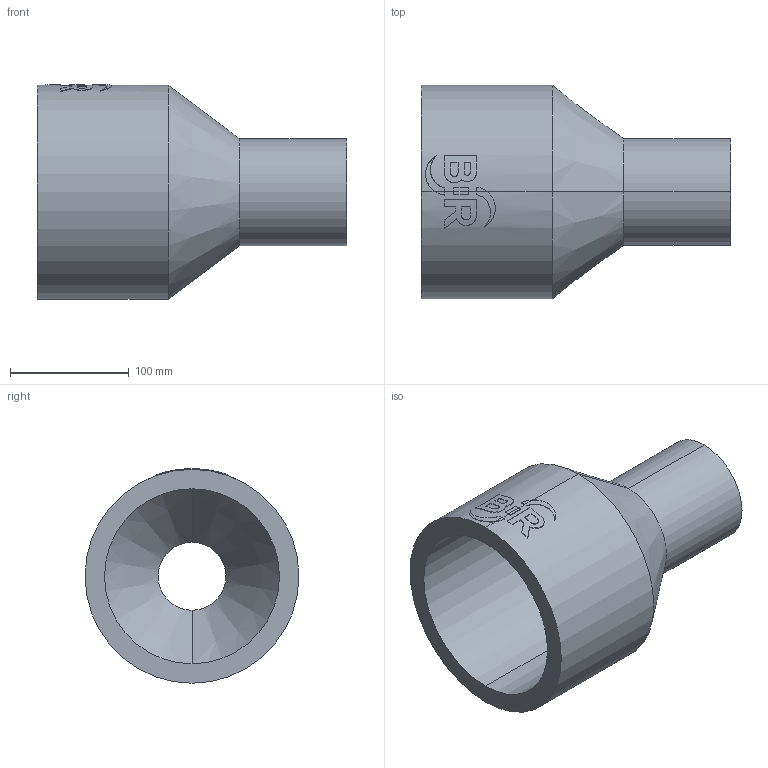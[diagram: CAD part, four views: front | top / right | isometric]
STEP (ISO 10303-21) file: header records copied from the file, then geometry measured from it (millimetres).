
FILE_DESCRIPTION (( 'STEP AP214' ), '1' );
FILE_NAME ('2323181335.STEP', '2018-07-20T12:12:25', ( '' ), ( '' ), 'SwSTEP 2.0', 'SolidWorks 2017', '' );
FILE_SCHEMA (( 'AUTOMOTIVE_DESIGN' ));
Length unit declared in the file: millimetre
Products named in the file (1): 2323181335
Bounding box: 260 x 180 x 180.46 mm (x, y, z)
Volume: 1714682 mm3; surface area: 221501.1 mm2
Topology: 1 solids, 1 shells, 63 faces, 160 edges, 104 vertices
Faces by surface type: cylinder 31, plane 28, cone 4
Entity records: 3273 total; most frequent: CARTESIAN_POINT 1064, ORIENTED_EDGE 320, DIRECTION 296, EDGE_CURVE 160, AXIS2_PLACEMENT_3D 112, VERTEX_POINT 104, LINE 72, VECTOR 72
